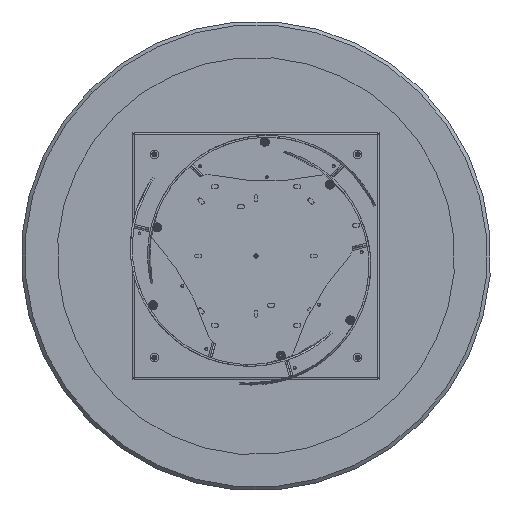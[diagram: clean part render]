
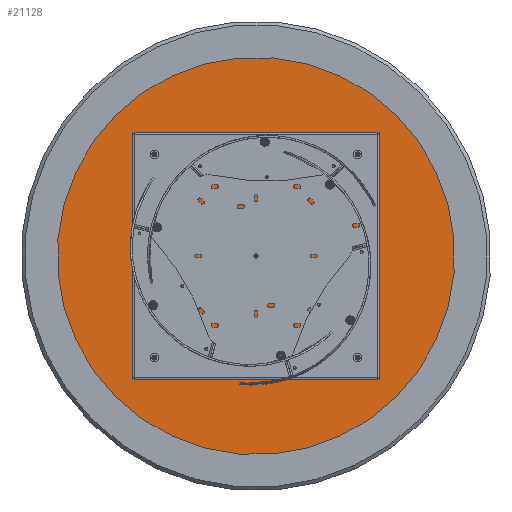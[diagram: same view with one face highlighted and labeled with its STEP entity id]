
A CAD part, front view. The second image highlights one B-rep face of the part: STEP entity #21128.
In plain terms, the highlighted planar face has unit normal (0, -1, 0).
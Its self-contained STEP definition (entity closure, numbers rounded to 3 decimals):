
#46 = PLANE ( 'NONE',  #2563 ) ;
#679 = CIRCLE ( 'NONE', #12348, 3.4 ) ;
#783 = DIRECTION ( 'NONE',  ( 0., 0., -1. ) ) ;
#865 = DIRECTION ( 'NONE',  ( 0., 0., -1. ) ) ;
#1135 = ORIENTED_EDGE ( 'NONE', *, *, #19085, .F. ) ;
#1218 = CARTESIAN_POINT ( 'NONE',  ( 0., 0., -400.9 ) ) ;
#1266 = ORIENTED_EDGE ( 'NONE', *, *, #18983, .F. ) ;
#1348 = ORIENTED_EDGE ( 'NONE', *, *, #18377, .F. ) ;
#1581 = DIRECTION ( 'NONE',  ( 0., -1., 0. ) ) ;
#1640 = FACE_BOUND ( 'NONE', #16663, .T. ) ;
#1835 = EDGE_CURVE ( 'NONE', #16595, #9246, #15877, .T. ) ;
#1855 = CIRCLE ( 'NONE', #9070, 3.4 ) ;
#1932 = CIRCLE ( 'NONE', #13944, 550. ) ;
#2070 = DIRECTION ( 'NONE',  ( 0., -1., 0. ) ) ;
#2487 = VERTEX_POINT ( 'NONE', #19306 ) ;
#2563 = AXIS2_PLACEMENT_3D ( 'NONE', #6584, #13126, #11626 ) ;
#2754 = VERTEX_POINT ( 'NONE', #9876 ) ;
#3239 = FACE_BOUND ( 'NONE', #18908, .T. ) ;
#3379 = CARTESIAN_POINT ( 'NONE',  ( 0., 0., 0. ) ) ;
#3484 = CARTESIAN_POINT ( 'NONE',  ( 0., 0., -397.5 ) ) ;
#3569 = VERTEX_POINT ( 'NONE', #1218 ) ;
#3983 = CARTESIAN_POINT ( 'NONE',  ( -397.5, 0., 0. ) ) ;
#4068 = CARTESIAN_POINT ( 'NONE',  ( -397.5, 0., -3.4 ) ) ;
#4155 = DIRECTION ( 'NONE',  ( 0., -1., 0. ) ) ;
#4920 = ORIENTED_EDGE ( 'NONE', *, *, #14720, .F. ) ;
#4971 = CIRCLE ( 'NONE', #19009, 3.4 ) ;
#5075 = FACE_BOUND ( 'NONE', #7760, .T. ) ;
#5248 = EDGE_LOOP ( 'NONE', ( #1135, #15438 ) ) ;
#5313 = CARTESIAN_POINT ( 'NONE',  ( 397.5, 0., 3.4 ) ) ;
#5459 = DIRECTION ( 'NONE',  ( 0., 1., 0. ) ) ;
#5497 = EDGE_CURVE ( 'NONE', #3569, #2754, #4971, .T. ) ;
#5746 = CIRCLE ( 'NONE', #20802, 3.4 ) ;
#6427 = DIRECTION ( 'NONE',  ( 0., 0., -1. ) ) ;
#6584 = CARTESIAN_POINT ( 'NONE',  ( 0., 0., 0. ) ) ;
#6777 = AXIS2_PLACEMENT_3D ( 'NONE', #8039, #21093, #6427 ) ;
#7220 = DIRECTION ( 'NONE',  ( 0., -1., 0. ) ) ;
#7559 = DIRECTION ( 'NONE',  ( 0., -1., 0. ) ) ;
#7760 = EDGE_LOOP ( 'NONE', ( #1266, #9718 ) ) ;
#7993 = EDGE_CURVE ( 'NONE', #2754, #3569, #679, .T. ) ;
#8039 = CARTESIAN_POINT ( 'NONE',  ( 0., 0., 0. ) ) ;
#8203 = FACE_BOUND ( 'NONE', #20876, .T. ) ;
#8318 = CARTESIAN_POINT ( 'NONE',  ( 397.5, 0., 0. ) ) ;
#8558 = DIRECTION ( 'NONE',  ( 0., 0., -1. ) ) ;
#8835 = CARTESIAN_POINT ( 'NONE',  ( 0., 0., 394.1 ) ) ;
#9070 = AXIS2_PLACEMENT_3D ( 'NONE', #14148, #4155, #11052 ) ;
#9246 = VERTEX_POINT ( 'NONE', #5313 ) ;
#9300 = CARTESIAN_POINT ( 'NONE',  ( 397.5, 0., -3.4 ) ) ;
#9348 = DIRECTION ( 'NONE',  ( 0., -1., 0. ) ) ;
#9476 = CARTESIAN_POINT ( 'NONE',  ( 0., 0., 6.3 ) ) ;
#9523 = ORIENTED_EDGE ( 'NONE', *, *, #18708, .F. ) ;
#9718 = ORIENTED_EDGE ( 'NONE', *, *, #19684, .F. ) ;
#9823 = DIRECTION ( 'NONE',  ( 0., 0., -1. ) ) ;
#9876 = CARTESIAN_POINT ( 'NONE',  ( 0., 0., -394.1 ) ) ;
#10186 = EDGE_LOOP ( 'NONE', ( #9523, #4920 ) ) ;
#10879 = CIRCLE ( 'NONE', #19412, 3.4 ) ;
#10895 = CIRCLE ( 'NONE', #19429, 6.3 ) ;
#11052 = DIRECTION ( 'NONE',  ( 0., 0., -1. ) ) ;
#11249 = VERTEX_POINT ( 'NONE', #17287 ) ;
#11320 = VERTEX_POINT ( 'NONE', #9476 ) ;
#11453 = AXIS2_PLACEMENT_3D ( 'NONE', #12934, #12625, #12727 ) ;
#11626 = DIRECTION ( 'NONE',  ( 0., 0., 1. ) ) ;
#12348 = AXIS2_PLACEMENT_3D ( 'NONE', #3484, #19801, #16696 ) ;
#12385 = CARTESIAN_POINT ( 'NONE',  ( 0., 0., -397.5 ) ) ;
#12625 = DIRECTION ( 'NONE',  ( 0., 1., 0. ) ) ;
#12727 = DIRECTION ( 'NONE',  ( 0., 0., 1. ) ) ;
#12916 = DIRECTION ( 'NONE',  ( 0., -1., 0. ) ) ;
#12934 = CARTESIAN_POINT ( 'NONE',  ( 0., 0., 0. ) ) ;
#13070 = DIRECTION ( 'NONE',  ( 0., 0., -1. ) ) ;
#13123 = EDGE_CURVE ( 'NONE', #15239, #11249, #16910, .T. ) ;
#13126 = DIRECTION ( 'NONE',  ( 0., 1., 0. ) ) ;
#13169 = VERTEX_POINT ( 'NONE', #8835 ) ;
#13503 = CARTESIAN_POINT ( 'NONE',  ( 0., 0., 0. ) ) ;
#13711 = ORIENTED_EDGE ( 'NONE', *, *, #13123, .F. ) ;
#13758 = DIRECTION ( 'NONE',  ( 0., 0., -1. ) ) ;
#13944 = AXIS2_PLACEMENT_3D ( 'NONE', #13503, #5459, #20029 ) ;
#14148 = CARTESIAN_POINT ( 'NONE',  ( -397.5, 0., 0. ) ) ;
#14189 = AXIS2_PLACEMENT_3D ( 'NONE', #3983, #7559, #783 ) ;
#14519 = CARTESIAN_POINT ( 'NONE',  ( 0., 0., 397.5 ) ) ;
#14678 = CARTESIAN_POINT ( 'NONE',  ( 0., 0., 397.5 ) ) ;
#14720 = EDGE_CURVE ( 'NONE', #16298, #2487, #20309, .T. ) ;
#14738 = FACE_OUTER_BOUND ( 'NONE', #10186, .T. ) ;
#15006 = AXIS2_PLACEMENT_3D ( 'NONE', #14519, #12916, #19446 ) ;
#15091 = DIRECTION ( 'NONE',  ( 0., -1., 0. ) ) ;
#15167 = VERTEX_POINT ( 'NONE', #16845 ) ;
#15239 = VERTEX_POINT ( 'NONE', #4068 ) ;
#15394 = CARTESIAN_POINT ( 'NONE',  ( 0., 0., -6.3 ) ) ;
#15438 = ORIENTED_EDGE ( 'NONE', *, *, #19272, .F. ) ;
#15877 = CIRCLE ( 'NONE', #20661, 3.4 ) ;
#16001 = EDGE_CURVE ( 'NONE', #11249, #15239, #1855, .T. ) ;
#16021 = CIRCLE ( 'NONE', #6777, 6.3 ) ;
#16298 = VERTEX_POINT ( 'NONE', #16899 ) ;
#16595 = VERTEX_POINT ( 'NONE', #9300 ) ;
#16652 = FACE_BOUND ( 'NONE', #5248, .T. ) ;
#16663 = EDGE_LOOP ( 'NONE', ( #20938, #1348 ) ) ;
#16696 = DIRECTION ( 'NONE',  ( 0., 0., -1. ) ) ;
#16845 = CARTESIAN_POINT ( 'NONE',  ( 0., 0., 400.9 ) ) ;
#16899 = CARTESIAN_POINT ( 'NONE',  ( 0., 0., 550. ) ) ;
#16910 = CIRCLE ( 'NONE', #14189, 3.4 ) ;
#17287 = CARTESIAN_POINT ( 'NONE',  ( -397.5, 0., 3.4 ) ) ;
#17918 = VERTEX_POINT ( 'NONE', #15394 ) ;
#18377 = EDGE_CURVE ( 'NONE', #9246, #16595, #10879, .T. ) ;
#18692 = ORIENTED_EDGE ( 'NONE', *, *, #5497, .F. ) ;
#18708 = EDGE_CURVE ( 'NONE', #2487, #16298, #1932, .T. ) ;
#18772 = CARTESIAN_POINT ( 'NONE',  ( 397.5, 0., 0. ) ) ;
#18852 = ORIENTED_EDGE ( 'NONE', *, *, #7993, .F. ) ;
#18908 = EDGE_LOOP ( 'NONE', ( #13711, #19068 ) ) ;
#18983 = EDGE_CURVE ( 'NONE', #13169, #15167, #5746, .T. ) ;
#19009 = AXIS2_PLACEMENT_3D ( 'NONE', #12385, #7220, #13758 ) ;
#19068 = ORIENTED_EDGE ( 'NONE', *, *, #16001, .F. ) ;
#19085 = EDGE_CURVE ( 'NONE', #17918, #11320, #16021, .T. ) ;
#19272 = EDGE_CURVE ( 'NONE', #11320, #17918, #10895, .T. ) ;
#19306 = CARTESIAN_POINT ( 'NONE',  ( 0., 0., -550. ) ) ;
#19412 = AXIS2_PLACEMENT_3D ( 'NONE', #18772, #9348, #865 ) ;
#19429 = AXIS2_PLACEMENT_3D ( 'NONE', #3379, #15091, #8558 ) ;
#19446 = DIRECTION ( 'NONE',  ( 0., 0., -1. ) ) ;
#19684 = EDGE_CURVE ( 'NONE', #15167, #13169, #21150, .T. ) ;
#19801 = DIRECTION ( 'NONE',  ( 0., -1., 0. ) ) ;
#20029 = DIRECTION ( 'NONE',  ( 0., 0., 1. ) ) ;
#20309 = CIRCLE ( 'NONE', #11453, 550. ) ;
#20661 = AXIS2_PLACEMENT_3D ( 'NONE', #8318, #2070, #9823 ) ;
#20802 = AXIS2_PLACEMENT_3D ( 'NONE', #14678, #1581, #13070 ) ;
#20876 = EDGE_LOOP ( 'NONE', ( #18692, #18852 ) ) ;
#20938 = ORIENTED_EDGE ( 'NONE', *, *, #1835, .F. ) ;
#21093 = DIRECTION ( 'NONE',  ( 0., -1., 0. ) ) ;
#21128 = ADVANCED_FACE ( 'NONE', ( #16652, #3239, #5075, #1640, #8203, #14738 ), #46, .F. ) ;
#21150 = CIRCLE ( 'NONE', #15006, 3.4 ) ;
